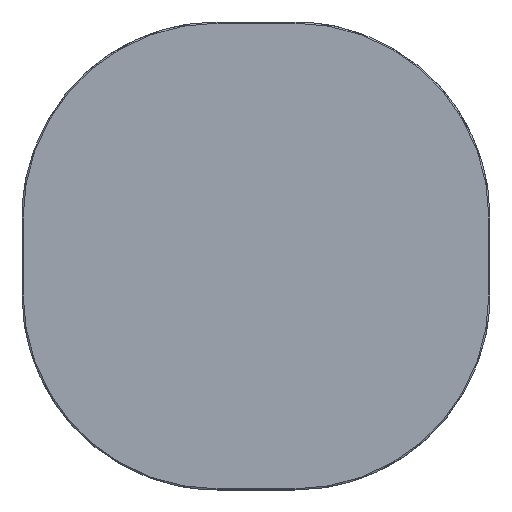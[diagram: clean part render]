
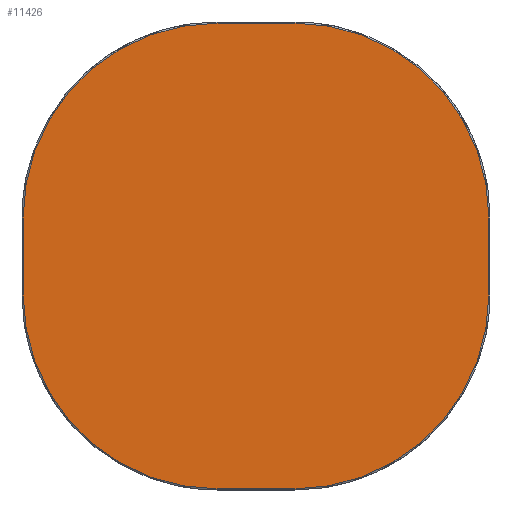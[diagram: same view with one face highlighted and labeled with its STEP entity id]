
A CAD part, top view. The second image highlights one B-rep face of the part: STEP entity #11426.
In plain terms, the highlighted planar face has unit normal (0, 0, 1).
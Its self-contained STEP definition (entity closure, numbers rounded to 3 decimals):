
#11336=CARTESIAN_POINT('',(0.,0.,20.));
#11337=DIRECTION('',(1.,0.,0.));
#11338=DIRECTION('',(0.,0.,1.));
#11339=AXIS2_PLACEMENT_3D('',#11336,#11338,#11337);
#11340=PLANE('',#11339);
#11341=CARTESIAN_POINT('',(-50.,-298.5,20.));
#11342=VERTEX_POINT('',#11341);
#11343=CARTESIAN_POINT('',(50.,-298.5,20.));
#11344=VERTEX_POINT('',#11343);
#11345=CARTESIAN_POINT('',(-50.,-298.5,20.));
#11346=DIRECTION('',(1.,0.,0.));
#11347=VECTOR('',#11346,100.);
#11348=LINE('',#11345,#11347);
#11349=EDGE_CURVE('',#11342,#11344,#11348,.T.);
#11350=ORIENTED_EDGE('E105',*,*,#11349,.T.);
#11351=CARTESIAN_POINT('',(298.5,-50.,20.));
#11352=VERTEX_POINT('',#11351);
#11353=CARTESIAN_POINT('',(50.,-50.,20.));
#11354=DIRECTION('',(0.,-1.,0.));
#11355=DIRECTION('',(0.,0.,1.));
#11356=AXIS2_PLACEMENT_3D('',#11353,#11355,#11354);
#11357=CIRCLE('',#11356,248.5);
#11358=EDGE_CURVE('',#11344,#11352,#11357,.T.);
#11359=ORIENTED_EDGE('E107',*,*,#11358,.T.);
#11360=CARTESIAN_POINT('',(298.5,50.001,20.));
#11361=VERTEX_POINT('',#11360);
#11362=CARTESIAN_POINT('',(298.5,-50.,20.));
#11363=CARTESIAN_POINT('',(298.5,-23.717,20.));
#11364=CARTESIAN_POINT('',(298.501,26.283,20.));
#11365=CARTESIAN_POINT('',(298.5,50.001,20.));
#11366=B_SPLINE_CURVE_WITH_KNOTS('',2,(#11362,#11363,#11364,#11365),.UNSPECIFIED.,.F.,.U.,(3,1,3),(0.,0.526,1.),.UNSPECIFIED.);
#11367=EDGE_CURVE('',#11352,#11361,#11366,.T.);
#11368=ORIENTED_EDGE('E109',*,*,#11367,.T.);
#11369=CARTESIAN_POINT('',(50.,298.5,20.));
#11370=VERTEX_POINT('',#11369);
#11371=CARTESIAN_POINT('',(50.,50.,20.));
#11372=DIRECTION('',(1.,0.,0.));
#11373=DIRECTION('',(0.,0.,1.));
#11374=AXIS2_PLACEMENT_3D('',#11371,#11373,#11372);
#11375=CIRCLE('',#11374,248.5);
#11376=EDGE_CURVE('',#11361,#11370,#11375,.T.);
#11377=ORIENTED_EDGE('E111',*,*,#11376,.T.);
#11378=CARTESIAN_POINT('',(-50.001,298.5,20.));
#11379=VERTEX_POINT('',#11378);
#11380=CARTESIAN_POINT('',(50.,298.5,20.));
#11381=CARTESIAN_POINT('',(44.06,298.499,20.));
#11382=CARTESIAN_POINT('',(33.903,298.5,20.));
#11383=CARTESIAN_POINT('',(23.359,298.5,20.));
#11384=CARTESIAN_POINT('',(7.191,298.5,20.));
#11385=CARTESIAN_POINT('',(-12.023,298.5,20.));
#11386=CARTESIAN_POINT('',(-27.644,298.501,20.));
#11387=CARTESIAN_POINT('',(-38.058,298.499,20.));
#11388=CARTESIAN_POINT('',(-46.112,298.498,20.));
#11389=CARTESIAN_POINT('',(-50.001,298.5,20.));
#11390=B_SPLINE_CURVE_WITH_KNOTS('',2,(#11380,#11381,#11382,#11383,#11384,#11385,#11386,#11387,#11388,#11389),.UNSPECIFIED.,.F.,.U.,(3,1,1,1,1,1,1,1,3),(0.,0.119,0.203,0.33,0.527,0.714,0.839,0.922,1.),.UNSPECIFIED.);
#11391=EDGE_CURVE('',#11370,#11379,#11390,.T.);
#11392=ORIENTED_EDGE('E113',*,*,#11391,.T.);
#11393=CARTESIAN_POINT('',(-298.5,50.,20.));
#11394=VERTEX_POINT('',#11393);
#11395=CARTESIAN_POINT('',(-50.,50.,20.));
#11396=DIRECTION('',(0.,1.,0.));
#11397=DIRECTION('',(0.,0.,1.));
#11398=AXIS2_PLACEMENT_3D('',#11395,#11397,#11396);
#11399=CIRCLE('',#11398,248.5);
#11400=EDGE_CURVE('',#11379,#11394,#11399,.T.);
#11401=ORIENTED_EDGE('E115',*,*,#11400,.T.);
#11402=CARTESIAN_POINT('',(-298.5,-50.001,20.));
#11403=VERTEX_POINT('',#11402);
#11404=CARTESIAN_POINT('',(-298.5,50.,20.));
#11405=CARTESIAN_POINT('',(-298.499,44.06,20.));
#11406=CARTESIAN_POINT('',(-298.5,33.903,20.));
#11407=CARTESIAN_POINT('',(-298.5,23.359,20.));
#11408=CARTESIAN_POINT('',(-298.5,7.191,20.));
#11409=CARTESIAN_POINT('',(-298.5,-12.023,20.));
#11410=CARTESIAN_POINT('',(-298.501,-27.644,20.));
#11411=CARTESIAN_POINT('',(-298.499,-38.058,20.));
#11412=CARTESIAN_POINT('',(-298.498,-46.112,20.));
#11413=CARTESIAN_POINT('',(-298.5,-50.001,20.));
#11414=B_SPLINE_CURVE_WITH_KNOTS('',2,(#11404,#11405,#11406,#11407,#11408,#11409,#11410,#11411,#11412,#11413),.UNSPECIFIED.,.F.,.U.,(3,1,1,1,1,1,1,1,3),(0.,0.119,0.203,0.33,0.527,0.714,0.839,0.922,1.),.UNSPECIFIED.);
#11415=EDGE_CURVE('',#11394,#11403,#11414,.T.);
#11416=ORIENTED_EDGE('E117',*,*,#11415,.T.);
#11417=CARTESIAN_POINT('',(-50.,-50.,20.));
#11418=DIRECTION('',(-1.,0.,0.));
#11419=DIRECTION('',(0.,0.,1.));
#11420=AXIS2_PLACEMENT_3D('',#11417,#11419,#11418);
#11421=CIRCLE('',#11420,248.5);
#11422=EDGE_CURVE('',#11403,#11342,#11421,.T.);
#11423=ORIENTED_EDGE('E119',*,*,#11422,.T.);
#11424=EDGE_LOOP('',(#11350,#11359,#11368,#11377,#11392,#11401,#11416,#11423));
#11425=FACE_OUTER_BOUND('',#11424,.T.);
#11426=ADVANCED_FACE('F2',(#11425),#11340,.T.);
